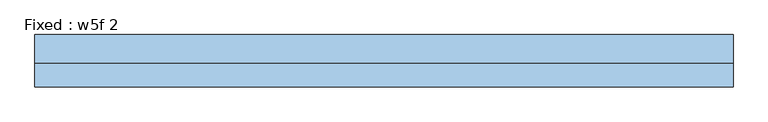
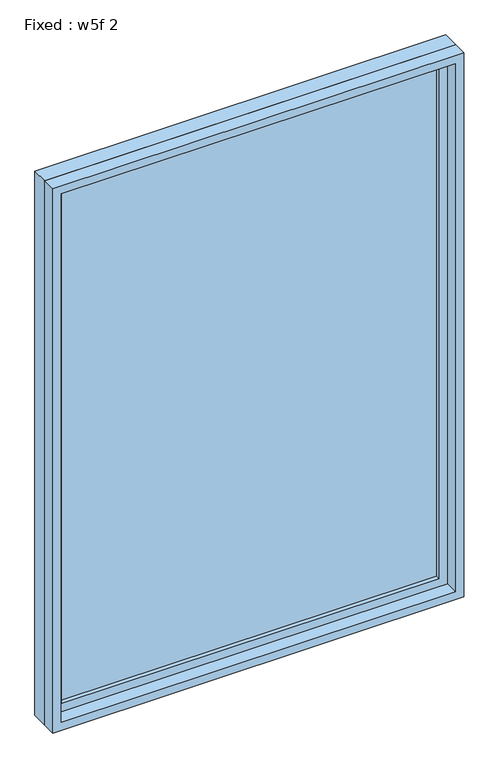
"""IFC4 building model written with IfcOpenShell, lengths in millimetres: window geometry, Fixed : w5f 2."""

import ifcopenshell
import ifcopenshell.guid

model = None  # the IFC model being written
_history = None  # IfcOwnerHistory: only IFC2X3 demands one
_inside = {}  # id of a spatial element -> (the spatial element, [elements in it])
_under = {}  # id of a project, library or spatial element -> (it, [spatial elements below it])
_declared = {}  # id of a project -> (the project, [libraries it declares])
_typed = {}  # id of a type object -> (the type object, [elements of that type])
_made_of = {}  # id of a material, layer set ... -> (it, [elements and type objects made of it])


def new_model(schema):
    """Start an empty IFC model of exactly this schema.

    Asked for "IFC4X3", IfcOpenShell would pick the latest addendum, in which some entities
    have other attributes; the version numbers below select the first issue.
    IFC2X3 requires an IfcOwnerHistory on every rooted entity: one is made here for all.
    """
    global model, _history
    if schema == "IFC4X3":
        model = ifcopenshell.file(schema_version=(4, 3, 0, 0))
    else:
        model = ifcopenshell.file(schema=schema)
    _inside.clear()
    _under.clear()
    _declared.clear()
    _typed.clear()
    _made_of.clear()
    _history = None
    if model.schema == "IFC2X3":
        org = make("IfcOrganization", Name="unknown")
        user = make(
            "IfcPersonAndOrganization",
            ThePerson=make("IfcPerson", FamilyName="unknown"),
            TheOrganization=org,
        )
        app = make(
            "IfcApplication",
            ApplicationDeveloper=org,
            Version="unknown",
            ApplicationFullName="unknown",
            ApplicationIdentifier="unknown",
        )
        _history = make(
            "IfcOwnerHistory",
            OwningUser=user,
            OwningApplication=app,
            ChangeAction="ADDED",
            CreationDate=0,
        )
    return model


def make(cls, **values):
    """One entity of the class cls with the attributes given. An attribute that is None is left unset."""
    return model.create_entity(
        cls, **{name: value for name, value in values.items() if value is not None}
    )


def rooted(cls, **values):
    """An entity with a GlobalId (a new one), such as an element, a storey or a relation."""
    return make(cls, GlobalId=ifcopenshell.guid.new(), OwnerHistory=_history, **values)


def si_unit(unit_type, name, prefix=None):
    """IfcSIUnit, for example si_unit("LENGTHUNIT", "METRE", prefix="MILLI")."""
    return make("IfcSIUnit", UnitType=unit_type, Prefix=prefix, Name=name)


def assignment(units):
    """IfcUnitAssignment: the units of a project."""
    return None if units is None else make("IfcUnitAssignment", Units=units)


def point(xyz):
    """IfcCartesianPoint."""
    return None if xyz is None else make("IfcCartesianPoint", Coordinates=xyz)


def direction(xyz):
    """IfcDirection."""
    return None if xyz is None else make("IfcDirection", DirectionRatios=xyz)


def frame(location, z_axis=None, x_axis=None):
    """IfcAxis2Placement3D, a coordinate frame: its origin and axes. An axis left out is left unset."""
    return make(
        "IfcAxis2Placement3D",
        Location=point(location),
        Axis=direction(z_axis),
        RefDirection=direction(x_axis),
    )


def origin():
    """The frame at (0, 0, 0) with its axes left unset."""
    return frame((0.0, 0.0, 0.0))


def place(relative_to, where):
    """IfcLocalPlacement: puts the frame where relative to a parent placement (None: the world)."""
    return make(
        "IfcLocalPlacement", PlacementRelTo=relative_to, RelativePlacement=where
    )


def context(
    kind, dimensions, precision=None, world=None, true_north=None, identifier=None
):
    """IfcGeometricRepresentationContext, for example the 3D "Model" context."""
    return make(
        "IfcGeometricRepresentationContext",
        ContextIdentifier=identifier,
        ContextType=kind,
        CoordinateSpaceDimension=dimensions,
        Precision=precision,
        WorldCoordinateSystem=world,
        TrueNorth=true_north,
    )


def project(units=None, contexts=None):
    """IfcProject with its units and contexts."""
    return rooted(
        "IfcProject",
        Name="project",
        RepresentationContexts=contexts,
        UnitsInContext=assignment(units),
    )


def spatial(cls, under=None, at=None, **own):
    """A site, building, storey or space (cls), placed at a placement, below another one or the project."""
    s = rooted(cls, ObjectPlacement=at, **own)
    if under is not None:
        _under.setdefault(under.id(), (under, []))[1].append(s)
    return s


def polyline(points):
    """IfcPolyline through the points."""
    return make("IfcPolyline", Points=[point(p) for p in points])


def outline(outer, holes=None, kind="AREA"):
    """IfcArbitraryClosedProfileDef: a profile drawn as a closed curve; with holes, ...WithVoids."""
    if holes is None:
        return make("IfcArbitraryClosedProfileDef", ProfileType=kind, OuterCurve=outer)
    return make(
        "IfcArbitraryProfileDefWithVoids",
        ProfileType=kind,
        OuterCurve=outer,
        InnerCurves=holes,
    )


def extrude(swept, where, along, depth):
    """IfcExtrudedAreaSolid: the profile swept, set in the frame where, extruded along a direction by depth."""
    return make(
        "IfcExtrudedAreaSolid",
        SweptArea=swept,
        Position=where,
        ExtrudedDirection=direction(along),
        Depth=depth,
    )


def shape(context_of_items, identifier, shape_type, items):
    """IfcShapeRepresentation: the items that make up one representation, for example the "Body"."""
    return make(
        "IfcShapeRepresentation",
        ContextOfItems=context_of_items,
        RepresentationIdentifier=identifier,
        RepresentationType=shape_type,
        Items=items,
    )


def source(mapping_origin, context_of_items, identifier, shape_type, items):
    """IfcRepresentationMap: a shape defined once, which mapped items show again and again."""
    return make(
        "IfcRepresentationMap",
        MappingOrigin=mapping_origin,
        MappedRepresentation=shape(context_of_items, identifier, shape_type, items),
    )


def transform(
    local_origin,
    x_axis=None,
    y_axis=None,
    z_axis=None,
    scale=None,
    scale2=None,
    scale3=None,
    uniform=True,
):
    """IfcCartesianTransformationOperator3D, or its non-uniform kind. x_axis, y_axis, z_axis: its Axis1, 2, 3."""
    if uniform:
        return make(
            "IfcCartesianTransformationOperator3D",
            Axis1=direction(x_axis),
            Axis2=direction(y_axis),
            LocalOrigin=point(local_origin),
            Scale=scale,
            Axis3=direction(z_axis),
        )
    return make(
        "IfcCartesianTransformationOperator3DnonUniform",
        Axis1=direction(x_axis),
        Axis2=direction(y_axis),
        LocalOrigin=point(local_origin),
        Scale=scale,
        Axis3=direction(z_axis),
        Scale2=scale2,
        Scale3=scale3,
    )


def mapped(mapping_source, mapping_target):
    """IfcMappedItem: shows the shape of a source again, moved by a transform."""
    return make(
        "IfcMappedItem", MappingSource=mapping_source, MappingTarget=mapping_target
    )


def made_of(thing, what):
    """Note that an element or type object is made of a material, layer set ...; save() writes the relation."""
    if what is not None:
        _made_of.setdefault(what.id(), (what, []))[1].append(thing)
    return thing


def element(
    cls,
    number,
    at=None,
    inside=None,
    cuts=None,
    type_object=None,
    material=None,
    context=None,
    identifier="Body",
    shape_type=None,
    held_by="IfcProductDefinitionShape",
    body=None,
    shapes=None,
    **own,
):
    """One element of the class cls, such as IfcWall. Its Tag is "e" and its number.

    at: its placement. inside: the storey or other place that contains it. cuts: it is an
    opening in that element (IfcRelVoidsElement). A single representation is given by context,
    identifier, shape_type and body (its items); several are given by shapes. held_by: the class
    of the entity that holds the representations. save() writes the other relations.
    """
    e = rooted(cls, Tag="e%d" % number, ObjectPlacement=at, **own)
    if body is not None:
        shapes = [shape(context, identifier, shape_type, body)]
    if shapes is not None:
        e.Representation = make(held_by, Representations=shapes)
    if inside is not None:
        _inside.setdefault(inside.id(), (inside, []))[1].append(e)
    if cuts is not None:
        rooted(
            "IfcRelVoidsElement", RelatingBuildingElement=cuts, RelatedOpeningElement=e
        )
    if type_object is not None:
        _typed.setdefault(type_object.id(), (type_object, []))[1].append(e)
    return made_of(e, material)


def aggregate(whole, parts):
    """IfcRelAggregates: a whole, such as a stair, and the parts it consists of."""
    return rooted("IfcRelAggregates", RelatingObject=whole, RelatedObjects=parts)


def save(model, path):
    """Write the relations noted so far, then the file.

    IfcRelAggregates (storeys below a building ...), IfcRelContainedInSpatialStructure (elements
    in a storey), IfcRelDefinesByType, IfcRelAssociatesMaterial and IfcRelDeclares: one each for
    every whole, place, type object, material and project.
    """
    for whole, parts in _under.values():
        aggregate(whole, parts)
    for where, things in _inside.values():
        rooted(
            "IfcRelContainedInSpatialStructure",
            RelatedElements=things,
            RelatingStructure=where,
        )
    for kind, things in _typed.values():
        rooted("IfcRelDefinesByType", RelatedObjects=things, RelatingType=kind)
    for what, things in _made_of.values():
        rooted("IfcRelAssociatesMaterial", RelatedObjects=things, RelatingMaterial=what)
    for by, libraries in _declared.values():
        rooted("IfcRelDeclares", RelatingContext=by, RelatedDefinitions=libraries)
    model.write(path)


def fixed_w5f_2_3b2bf8fd(model_context):
    return source(origin(), model_context, "Body", "SweptSolid", [
        extrude(outline(polyline([(660.4, 9.525), (-736.6, 9.525), (-736.6, 22.225), (660.4, 22.225), (660.4, 9.525)])), frame((0.0, 0.0, 977.9), z_axis=(0.0, 0.0, 1.0), x_axis=(1.0, 0.0, 0.0)), (0.0, 0.0, 1.0), 2006.6),
        extrude(outline(polyline([(3028.95, -781.05), (933.45, -781.05), (933.45, 704.85), (3028.95, 704.85), (3028.95, -781.05)]), holes=[polyline([(2984.5, -736.6), (2984.5, 660.4), (977.9, 660.4), (977.9, -736.6), (2984.5, -736.6)])]), frame((0.0, -6.35, 0.0), z_axis=(0.0, 1.0, 0.0), x_axis=(0.0, 0.0, 1.0)), (0.0, 0.0, 1.0), 44.45),
        extrude(outline(polyline([(3048.0, -800.1), (914.4, -800.1), (914.4, 723.9), (3048.0, 723.9), (3048.0, -800.1)]), holes=[polyline([(3016.25, -768.35), (3016.25, 692.15), (946.15, 692.15), (946.15, -768.35), (3016.25, -768.35)])]), frame((0.0, -57.15, 0.0), z_axis=(0.0, 1.0, 0.0), x_axis=(0.0, 0.0, 1.0)), (0.0, 0.0, 1.0), 50.8),
        extrude(outline(polyline([(3048.0, 723.9), (3048.0, -800.1), (914.4, -800.1), (914.4, 723.9), (3048.0, 723.9)]), holes=[polyline([(3028.95, 704.85), (933.45, 704.85), (933.45, -781.05), (3028.95, -781.05), (3028.95, 704.85)])]), frame((0.0, -6.35, 0.0), z_axis=(0.0, 1.0, 0.0), x_axis=(0.0, 0.0, 1.0)), (0.0, 0.0, 1.0), 63.5),
    ])


if __name__ == "__main__":
    model = new_model("IFC4")
    model_context = context("Model", 3, world=origin())
    ifc_project = project(units=[si_unit("LENGTHUNIT", "METRE", prefix="MILLI")], contexts=[model_context])
    site = spatial("IfcSite", under=ifc_project)
    building = spatial("IfcBuilding", under=site)
    placement = place(None, origin())
    fixed_w5f_2_shape = fixed_w5f_2_3b2bf8fd(model_context)
    element("IfcWindow", 1, ObjectType="Fixed : w5f 2", at=placement, inside=building, context=model_context, shape_type="MappedRepresentation", body=[
        mapped(fixed_w5f_2_shape, transform((0.0, 0.0, 0.0), x_axis=(1.0, 0.0, 0.0), y_axis=(0.0, 1.0, 0.0), z_axis=(0.0, 0.0, 1.0))),
    ])
    save(model, "model.ifc")
